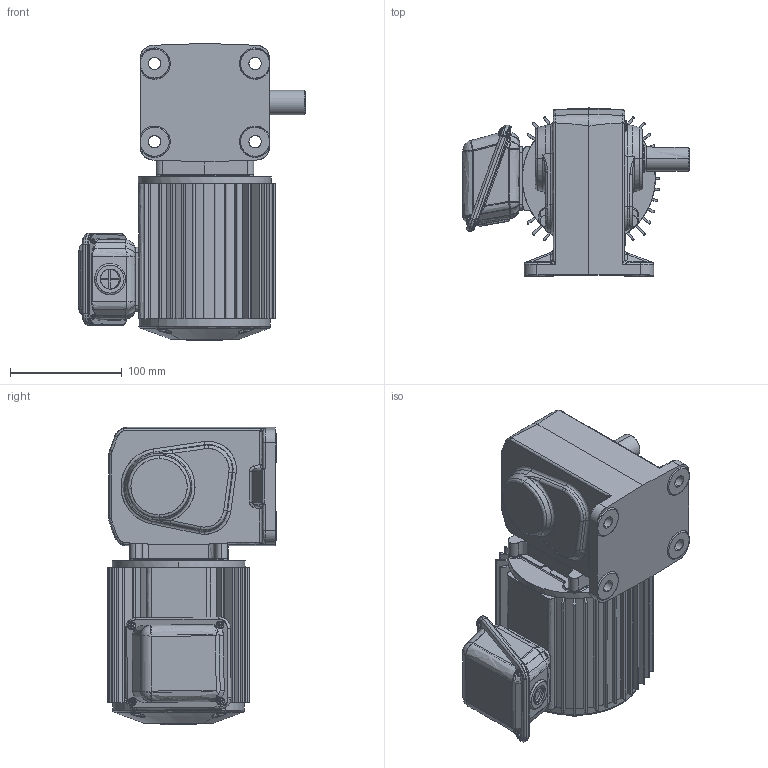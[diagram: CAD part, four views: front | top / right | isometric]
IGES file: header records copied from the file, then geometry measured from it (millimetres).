
Start section: SolidWorks IGES file using analytic representation for surfaces
Global section: file name: \\100.100.100.8\1_共有作業フォルダ\1-5_３Ｄデータ\solidworks\personal-folder\H.Nagayama\HL外形\HL(3D)\igs\TMHL-02-(5~60)B.IGS; native system: SolidWorks 2018; preprocessor: SolidWorks 2018; author: sigma-giken; date: 200324.141427; units: millimetre
Bounding box: 203 x 151 x 266 mm (x, y, z)
Surface area: 361556.1 mm2 (no closed solid volume)
Topology: 0 solids, 0 shells, 1463 faces, 17783 edges, 17702 vertices
Faces by surface type: bspline 753, revolution 710
